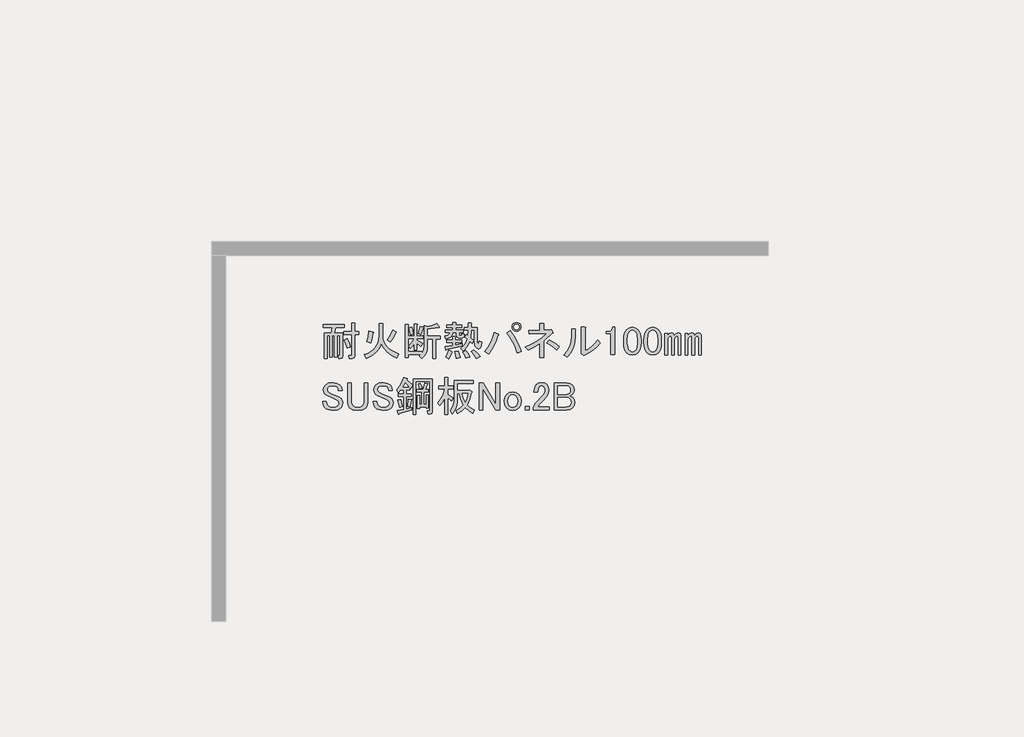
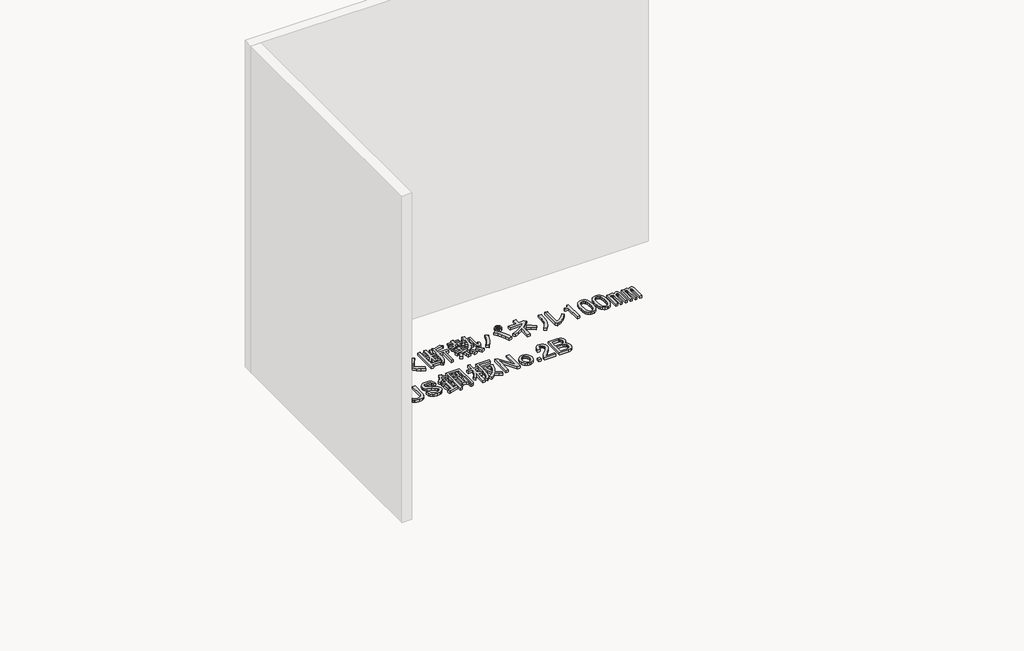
# One storey, part 116 of 117: 1 proxy.
"""IFC4 building model written with IfcOpenShell, lengths in millimetres."""

from ifc_helpers import new_model, si_unit, frame, origin, place, context, project, spatial, polyline, outline, extrude, element, save

model = new_model("IFC4")

# Units and contexts
model_context = context("Model", 3, world=origin())
ifc_project = project(units=[si_unit("LENGTHUNIT", "METRE", prefix="MILLI")], contexts=[model_context])

# Site, building, storey
site = spatial("IfcSite", under=ifc_project)
building = spatial("IfcBuilding", under=site)
storey = spatial("IfcBuildingStorey", under=building, Name="レベル 1", Elevation=500.0)

# Proxy
placement = place(None, origin())
element("IfcBuildingElementProxy", 1, Name="200㎜\u3000MS Pゴシック", ObjectType="200㎜\u3000MS Pゴシック", at=placement, inside=storey, context=model_context, shape_type="SweptSolid", body=[
    extrude(outline(polyline([(64978.5674486, 11229.3142262), (64971.0959694, 11259.7748726), (64960.176115, 11289.0860605), (64982.0158237, 11297.132269), (64994.372501, 11267.5337164), (65001.5566157, 11238.5098931), (64978.5674486, 11229.3142262)])), frame((0.0, 0.0, 500.0), z_axis=(0.0, 0.0, 1.0), x_axis=(1.0, 0.0, 0.0)), (0.0, 0.0, 1.0), 25.0),
    extrude(outline(polyline([(64887.7602388, 11320.121436), (64871.6678219, 11320.121436), (64871.6678219, 11164.9445585), (64852.1270299, 11164.9445585), (64852.1270299, 11320.121436), (64833.7356963, 11320.121436), (64833.7356963, 11152.3005167), (64814.1949043, 11152.3005167), (64814.1949043, 11338.5127697), (64865.9205301, 11338.5127697), (64871.6678219, 11377.5943537), (64804.9992375, 11377.5943537), (64804.9992375, 11399.4340623), (64960.176115, 11399.4340623), (64960.176115, 11377.5943537), (64895.8064473, 11377.5943537), (64885.4613221, 11338.5127697), (64946.3826148, 11338.5127697), (64946.3826148, 11170.6918503), (64942.3595106, 11158.6225376), (64930.2901979, 11154.5994334), (64919.9450727, 11154.5994334), (64915.3472393, 11176.439142), (64922.2439894, 11176.439142), (64925.6923645, 11177.5886004), (64926.8418228, 11181.0369755), (64926.8418228, 11320.121436), (64907.3010308, 11320.121436), (64907.3010308, 11164.9445585), (64887.7602388, 11164.9445585), (64887.7602388, 11320.121436)])), frame((0.0, 0.0, 500.0), z_axis=(0.0, 0.0, 1.0), x_axis=(1.0, 0.0, 0.0)), (0.0, 0.0, 1.0), 25.0),
    extrude(outline(polyline([(64956.72774, 11325.8687278), (64956.72774, 11347.7084365), (65013.0511992, 11347.7084365), (65013.0511992, 11409.7791875), (65034.8909079, 11409.7791875), (65039.7761059, 11407.4802708), (65036.0403663, 11402.8824374), (65036.0403663, 11347.7084365), (65064.7768251, 11347.7084365), (65064.7768251, 11325.8687278), (65036.0403663, 11325.8687278), (65036.0403663, 11172.990767), (65031.4425328, 11159.1972668), (65017.6490326, 11154.5994334), (64994.6598656, 11154.5994334), (64991.2114905, 11176.439142), (65008.4533658, 11176.439142), (65011.9017409, 11177.5886004), (65013.0511992, 11181.0369755), (65013.0511992, 11325.8687278), (64956.72774, 11325.8687278)])), frame((0.0, 0.0, 500.0), z_axis=(0.0, 0.0, 1.0), x_axis=(1.0, 0.0, 0.0)), (0.0, 0.0, 1.0), 25.0),
    extrude(outline(polyline([(65226.8504527, 11261.4990601), (65210.9017181, 11226.6561038), (65187.1941395, 11196.8420278), (65155.7277172, 11172.0568321), (65116.5024509, 11152.3005167), (65102.7089507, 11181.0369755), (65128.032955, 11190.71757), (65149.9804254, 11202.5174784), (65168.5513619, 11216.4367006), (65183.7457645, 11232.4752367), (65195.5636332, 11250.6330866), (65204.0049679, 11270.9102504), (65209.0697688, 11293.3067279), (65210.7580358, 11317.8225193), (65210.7580358, 11408.6297292), (65237.1955779, 11406.3308125), (65240.6439529, 11402.8824374), (65237.1955779, 11397.1351456), (65237.1955779, 11317.8225193), (65238.9916065, 11296.377937), (65244.3796926, 11276.2983364), (65253.3598359, 11257.5837176), (65265.9320367, 11240.2340806), (65282.0962947, 11224.2494254), (65301.8526102, 11209.629752), (65352.1414131, 11184.4853505), (65340.6468295, 11155.7488917), (65301.2060398, 11175.2896837), (65269.0930471, 11199.4283091), (65244.3078514, 11228.1647679), (65226.8504527, 11261.4990601)])), frame((0.0, 0.0, 500.0), z_axis=(0.0, 0.0, 1.0), x_axis=(1.0, 0.0, 0.0)), (0.0, 0.0, 1.0), 25.0),
    extrude(outline(polyline([(65330.3017044, 11337.3633113), (65310.1861832, 11297.9943628), (65293.5190371, 11271.8441853), (65270.5298701, 11286.7871438), (65290.3580266, 11318.3972485), (65308.4619957, 11358.0535617), (65333.7500794, 11345.4095198), (65336.3363607, 11341.6737801), (65330.3017044, 11337.3633113)])), frame((0.0, 0.0, 500.0), z_axis=(0.0, 0.0, 1.0), x_axis=(1.0, 0.0, 0.0)), (0.0, 0.0, 1.0), 25.0),
    extrude(outline(polyline([(65122.2497427, 11276.4420187), (65134.0316908, 11310.6384046), (65137.1927012, 11353.4557283), (65165.92916, 11346.5589781), (65170.5269934, 11342.8232385), (65165.92916, 11338.5127697), (65162.1934204, 11304.0290191), (65150.9862015, 11267.2463519), (65122.2497427, 11276.4420187)])), frame((0.0, 0.0, 500.0), z_axis=(0.0, 0.0, 1.0), x_axis=(1.0, 0.0, 0.0)), (0.0, 0.0, 1.0), 25.0),
    extrude(outline(polyline([(65647.5522095, 11381.0427287), (65645.828022, 11376.4448953), (65638.3565427, 11378.743812), (65561.3428331, 11366.0997701), (65561.3428331, 11316.673061), (65653.2995013, 11316.673061), (65653.2995013, 11294.8333523), (65622.2641258, 11294.8333523), (65622.2641258, 11154.5994334), (65599.2749588, 11154.5994334), (65599.2749588, 11294.8333523), (65561.3428331, 11294.8333523), (65561.3428331, 11245.4066432), (65558.7565518, 11217.6041193), (65550.997708, 11192.8189236), (65538.0663015, 11171.051056), (65519.9623325, 11152.3005167), (65502.7204572, 11171.8413086), (65513.0655823, 11181.0369755), (65423.4078309, 11181.0369755), (65423.4078309, 11159.1972668), (65400.4186638, 11159.1972668), (65400.4186638, 11398.284604), (65422.2583725, 11398.284604), (65427.1435705, 11395.9856873), (65423.4078309, 11391.3878539), (65423.4078309, 11315.5236026), (65465.9377899, 11315.5236026), (65465.9377899, 11402.8824374), (65484.3291235, 11402.8824374), (65489.2143215, 11400.5835207), (65485.4785819, 11395.9856873), (65485.4785819, 11315.5236026), (65529.1579993, 11315.5236026), (65529.1579993, 11297.132269), (65485.4785819, 11297.132269), (65485.4785819, 11287.9366022), (65525.7096242, 11261.4990601), (65511.916124, 11239.6593514), (65485.4785819, 11266.0968935), (65485.4785819, 11213.2218093), (65465.9377899, 11213.2218093), (65465.9377899, 11261.4990601), (65452.7190189, 11241.6709035), (65438.3507895, 11225.8658512), (65425.7067476, 11244.2571848), (65447.5464563, 11268.3958102), (65464.7883316, 11297.132269), (65423.4078309, 11297.132269), (65423.4078309, 11202.8766841), (65521.1117908, 11202.8766841), (65521.1117908, 11189.0831839), (65534.0431973, 11213.2218093), (65538.3536661, 11246.5561015), (65538.3536661, 11391.3878539), (65560.1933748, 11385.6405621), (65596.4013129, 11393.1120414), (65626.8619592, 11406.3308125), (65647.5522095, 11381.0427287)])), frame((0.0, 0.0, 500.0), z_axis=(0.0, 0.0, 1.0), x_axis=(1.0, 0.0, 0.0)), (0.0, 0.0, 1.0), 25.0),
    extrude(outline(polyline([(65493.5247904, 11332.7654779), (65510.7666656, 11385.6405621), (65531.456916, 11379.8932704), (65533.1811035, 11376.7322599), (65529.1579993, 11374.1459786), (65511.916124, 11325.8687278), (65493.5247904, 11332.7654779)])), frame((0.0, 0.0, 500.0), z_axis=(0.0, 0.0, 1.0), x_axis=(1.0, 0.0, 0.0)), (0.0, 0.0, 1.0), 25.0),
    extrude(outline(polyline([(65439.5002478, 11324.7192695), (65426.8562059, 11375.2954369), (65446.3969979, 11382.1921871), (65454.1558418, 11358.0535617), (65459.0410398, 11331.6160196), (65439.5002478, 11324.7192695)])), frame((0.0, 0.0, 500.0), z_axis=(0.0, 0.0, 1.0), x_axis=(1.0, 0.0, 0.0)), (0.0, 0.0, 1.0), 25.0),
    extrude(outline(polyline([(65770.5442532, 11340.8116864), (65745.2561695, 11340.8116864), (65740.6583361, 11323.3542877), (65730.3132109, 11310.0636755), (65714.220794, 11300.9398498), (65692.3810853, 11295.9828107), (65687.7832519, 11315.5236026), (65713.0713356, 11324.1445403), (65720.5428149, 11331.4723373), (65724.5659191, 11340.8116864), (65688.9327102, 11340.8116864), (65688.9327102, 11359.20302), (65742.9572528, 11359.20302), (65742.9572528, 11376.4448953), (65699.2778354, 11376.4448953), (65699.2778354, 11394.8362289), (65742.9572528, 11394.8362289), (65742.9572528, 11413.2275626), (65764.7969614, 11413.2275626), (65769.6821594, 11410.9286459), (65765.9464198, 11406.3308125), (65765.9464198, 11394.8362289), (65808.4763788, 11394.8362289), (65808.4763788, 11376.4448953), (65765.9464198, 11376.4448953), (65765.9464198, 11359.20302), (65818.821504, 11359.20302), (65818.821504, 11340.8116864), (65790.0850452, 11340.8116864), (65790.0850452, 11328.1676445), (65791.5218681, 11322.9950819), (65795.832337, 11321.2708944), (65806.1774621, 11321.2708944), (65809.9132018, 11324.4319049), (65809.6258372, 11333.9149363), (65829.1666292, 11331.6160196), (65826.2929833, 11310.0636755), (65820.9767384, 11304.6755894), (65813.0742122, 11302.8795608), (65788.9355868, 11302.8795608), (65775.1420866, 11307.7647588), (65770.5442532, 11322.4203528), (65770.5442532, 11340.8116864)])), frame((0.0, 0.0, 500.0), z_axis=(0.0, 0.0, 1.0), x_axis=(1.0, 0.0, 0.0)), (0.0, 0.0, 1.0), 25.0),
    extrude(outline(polyline([(65901.5825053, 11358.0535617), (65879.7427966, 11358.0535617), (65875.1449632, 11300.5806441), (65894.6857552, 11282.1893104), (65884.3406301, 11260.3496017), (65868.2482131, 11276.4420187), (65848.9947857, 11238.7972576), (65818.821504, 11206.3250592), (65801.5796287, 11227.0153095), (65816.6662696, 11238.9409399), (65829.7413583, 11254.0275808), (65840.804895, 11272.2752321), (65849.8568795, 11293.683894), (65832.6150042, 11308.6268525), (65840.6612127, 11325.8687278), (65854.4547129, 11315.5236026), (65856.7536296, 11358.0535617), (65829.1666292, 11358.0535617), (65829.1666292, 11376.4448953), (65856.7536296, 11376.4448953), (65856.7536296, 11410.9286459), (65878.5933383, 11410.9286459), (65883.4785363, 11408.6297292), (65879.7427966, 11404.0318957), (65879.7427966, 11376.4448953), (65921.1232973, 11376.4448953), (65921.1232973, 11279.8903937), (65924.5716724, 11255.7517683), (65927.804524, 11253.7402162), (65930.6063287, 11256.9012267), (65934.9167975, 11278.7409354), (65954.4575895, 11271.8441853), (65949.9315973, 11245.0474374), (65942.1009122, 11229.0268616), (65930.9655345, 11223.7824579), (65916.5254639, 11229.3142262), (65909.9879195, 11236.6420232), (65905.318245, 11248.280289), (65901.5825053, 11284.4882271), (65901.5825053, 11358.0535617)])), frame((0.0, 0.0, 500.0), z_axis=(0.0, 0.0, 1.0), x_axis=(1.0, 0.0, 0.0)), (0.0, 0.0, 1.0), 25.0),
    extrude(outline(polyline([(65700.4272937, 11218.9691011), (65698.4157416, 11214.0839031), (65694.680002, 11215.520726), (65688.9327102, 11239.6593514), (65744.1067111, 11247.7055599), (65744.1067111, 11270.6947269), (65700.4272937, 11270.6947269), (65700.4272937, 11289.0860605), (65744.1067111, 11289.0860605), (65744.1067111, 11312.0752276), (65762.4980447, 11312.0752276), (65767.3832427, 11309.7763109), (65763.6475031, 11305.1784775), (65763.6475031, 11289.0860605), (65808.4763788, 11289.0860605), (65808.4763788, 11270.6947269), (65763.6475031, 11270.6947269), (65763.6475031, 11251.1539349), (65814.2236706, 11260.3496017), (65814.2236706, 11244.2571848), (65700.4272937, 11218.9691011)])), frame((0.0, 0.0, 500.0), z_axis=(0.0, 0.0, 1.0), x_axis=(1.0, 0.0, 0.0)), (0.0, 0.0, 1.0), 25.0),
    extrude(outline(polyline([(65898.1341303, 11214.3712677), (65922.8474849, 11193.1062881), (65941.8135477, 11168.3929336), (65915.3760056, 11153.449975), (65896.1225782, 11183.0485276), (65877.4438799, 11202.8766841), (65898.1341303, 11214.3712677)])), frame((0.0, 0.0, 500.0), z_axis=(0.0, 0.0, 1.0), x_axis=(1.0, 0.0, 0.0)), (0.0, 0.0, 1.0), 25.0),
    extrude(outline(polyline([(65839.5117543, 11155.7488917), (65831.1781813, 11180.4622463), (65817.6720456, 11201.7272258), (65838.362296, 11209.7734343), (65855.3168067, 11188.2210902), (65867.0987548, 11164.9445585), (65839.5117543, 11155.7488917)])), frame((0.0, 0.0, 500.0), z_axis=(0.0, 0.0, 1.0), x_axis=(1.0, 0.0, 0.0)), (0.0, 0.0, 1.0), 25.0),
    extrude(outline(polyline([(65738.3594193, 11204.0261425), (65741.8077944, 11199.1409445), (65736.0605026, 11195.979934), (65726.2901067, 11170.4044857), (65715.3702523, 11151.1510583), (65692.3810853, 11162.6456418), (65705.0251271, 11186.209538), (65715.3702523, 11213.2218093), (65738.3594193, 11204.0261425)])), frame((0.0, 0.0, 500.0), z_axis=(0.0, 0.0, 1.0), x_axis=(1.0, 0.0, 0.0)), (0.0, 0.0, 1.0), 25.0),
    extrude(outline(polyline([(65783.1882951, 11208.6239759), (65793.2460557, 11181.32434), (65798.1312537, 11159.1972668), (65769.3947949, 11153.449975), (65766.8085136, 11175.0023191), (65759.0496697, 11205.1756008), (65783.1882951, 11208.6239759)])), frame((0.0, 0.0, 500.0), z_axis=(0.0, 0.0, 1.0), x_axis=(1.0, 0.0, 0.0)), (0.0, 0.0, 1.0), 25.0),
    extrude(outline(polyline([(66206.1889686, 11350.0073532), (66193.5449268, 11352.3062699), (66183.1998016, 11359.20302), (66176.3030515, 11369.5481452), (66174.0041348, 11382.1921871), (66176.3030515, 11394.8362289), (66183.1998016, 11405.1813541), (66193.5449268, 11412.0781042), (66206.1889686, 11414.3770209), (66218.8330105, 11412.0781042), (66229.1781357, 11405.1813541), (66236.0748858, 11394.8362289), (66238.3738025, 11382.1921871), (66236.0748858, 11369.5481452), (66229.1781357, 11359.20302), (66218.8330105, 11352.3062699), (66206.1889686, 11350.0073532)]), holes=[polyline([(66206.1889686, 11361.5019367), (66214.5225417, 11362.9387597), (66221.1319272, 11367.2492285), (66225.442396, 11373.858614), (66226.879219, 11382.1921871), (66225.442396, 11390.5257601), (66221.1319272, 11397.1351456), (66214.5225417, 11401.4456145), (66206.1889686, 11402.8824374), (66197.8553956, 11401.4456145), (66191.2460101, 11397.1351456), (66186.9355412, 11390.5257601), (66185.4987183, 11382.1921871), (66186.9355412, 11373.858614), (66191.2460101, 11367.2492285), (66197.8553956, 11362.9387597), (66206.1889686, 11361.5019367)])]), frame((0.0, 0.0, 500.0), z_axis=(0.0, 0.0, 1.0), x_axis=(1.0, 0.0, 0.0)), (0.0, 0.0, 1.0), 25.0),
    extrude(outline(polyline([(66160.2106345, 11355.754645), (66186.8637001, 11319.0438188), (66209.3499791, 11281.3272167), (66227.6694716, 11242.6048384), (66241.8221775, 11202.8766841), (66210.786802, 11192.531559), (66195.3409554, 11235.6362472), (66177.7398744, 11274.143102), (66157.983559, 11308.0521234), (66136.0720092, 11337.3633113), (66160.2106345, 11355.754645)])), frame((0.0, 0.0, 500.0), z_axis=(0.0, 0.0, 1.0), x_axis=(1.0, 0.0, 0.0)), (0.0, 0.0, 1.0), 25.0),
    extrude(outline(polyline([(66072.8517998, 11329.3171029), (66076.874904, 11323.8571757), (66070.5528831, 11318.9719777), (66058.6272527, 11283.5542922), (66043.5406118, 11249.717112), (66025.2929605, 11217.460437), (66003.8842987, 11186.7842672), (65977.4467566, 11204.0261425), (66000.6514471, 11235.4925649), (66019.689351, 11268.9705394), (66034.5604684, 11304.460066), (66045.2647993, 11341.9611447), (66072.8517998, 11329.3171029)])), frame((0.0, 0.0, 500.0), z_axis=(0.0, 0.0, 1.0), x_axis=(1.0, 0.0, 0.0)), (0.0, 0.0, 1.0), 25.0),
    extrude(outline(polyline([(66449.8741393, 11360.3524784), (66456.7708894, 11362.6513951), (66469.4149312, 11345.4095198), (66470.5643896, 11339.3748634), (66464.8170978, 11337.3633113), (66401.5968885, 11281.0398521), (66401.5968885, 11160.3467251), (66375.1593464, 11160.3467251), (66375.1593464, 11262.6485184), (66334.9283041, 11238.5098931), (66290.0994283, 11216.6701844), (66270.5586363, 11237.3604347), (66316.1059235, 11256.8293855), (66357.3427419, 11279.6030291), (66394.2690915, 11305.6813655), (66426.8849722, 11335.0643946), (66296.9961784, 11329.3171029), (66293.5478034, 11354.6051866), (66375.1593464, 11356.9041033), (66375.1593464, 11408.6297292), (66398.1485134, 11408.6297292), (66404.1831698, 11405.1813541), (66401.5968885, 11399.4340623), (66401.5968885, 11358.0535617), (66449.8741393, 11360.3524784)])), frame((0.0, 0.0, 500.0), z_axis=(0.0, 0.0, 1.0), x_axis=(1.0, 0.0, 0.0)), (0.0, 0.0, 1.0), 25.0),
    extrude(outline(polyline([(66495.8524733, 11216.6701844), (66458.7824415, 11245.9813723), (66425.7355139, 11267.2463519), (66442.9773892, 11289.0860605), (66481.7716085, 11265.8095289), (66515.3932653, 11239.6593514), (66495.8524733, 11216.6701844)])), frame((0.0, 0.0, 500.0), z_axis=(0.0, 0.0, 1.0), x_axis=(1.0, 0.0, 0.0)), (0.0, 0.0, 1.0), 25.0),
    extrude(outline(polyline([(66702.8469334, 11209.7734343), (66727.6321291, 11221.9864292), (66751.4115488, 11239.0846222), (66774.1851924, 11261.0680132), (66795.9530599, 11287.9366022), (66812.0454768, 11266.0968935), (66788.7689452, 11238.2943696), (66762.6187677, 11214.6586322), (66733.5949443, 11195.1896814), (66701.697475, 11179.8875171), (66692.5018082, 11175.2896837), (66674.1104746, 11189.0831839), (66676.4093913, 11194.8304757), (66676.4093913, 11379.8932704), (66700.5480167, 11379.8932704), (66706.2953084, 11376.4448953), (66702.8469334, 11370.6976035), (66702.8469334, 11209.7734343)])), frame((0.0, 0.0, 500.0), z_axis=(0.0, 0.0, 1.0), x_axis=(1.0, 0.0, 0.0)), (0.0, 0.0, 1.0), 25.0),
    extrude(outline(polyline([(66548.8195142, 11178.7380587), (66573.9639157, 11207.9774056), (66591.9242024, 11240.5214452), (66602.7003745, 11276.3701775), (66606.2924318, 11315.5236026), (66606.2924318, 11367.2492285), (66630.4310572, 11367.2492285), (66636.178349, 11363.8008534), (66632.7299739, 11358.0535617), (66632.7299739, 11316.673061), (66628.9223931, 11270.9102504), (66617.4996507, 11230.17632), (66598.4617468, 11194.4712699), (66571.8086812, 11163.7951002), (66548.8195142, 11178.7380587)])), frame((0.0, 0.0, 500.0), z_axis=(0.0, 0.0, 1.0), x_axis=(1.0, 0.0, 0.0)), (0.0, 0.0, 1.0), 25.0),
    extrude(outline(polyline([(66891.3581031, 11356.9041033), (66899.4043116, 11367.8239577), (66902.8526866, 11379.8932704), (66916.6461869, 11379.8932704), (66916.6461869, 11181.0369755), (66890.2086448, 11181.0369755), (66890.2086448, 11333.9149363), (66855.7248942, 11333.9149363), (66855.7248942, 11347.7084365), (66866.0700194, 11347.7084365), (66880.4382488, 11350.0073532), (66891.3581031, 11356.9041033)])), frame((0.0, 0.0, 500.0), z_axis=(0.0, 0.0, 1.0), x_axis=(1.0, 0.0, 0.0)), (0.0, 0.0, 1.0), 25.0),
    extrude(outline(polyline([(66982.1653129, 11290.2355189), (66983.6021359, 11313.7994151), (66987.9126047, 11333.9149363), (66995.0967194, 11350.5820824), (67005.15448, 11363.8008534), (67023.258449, 11375.8701661), (67045.3855223, 11379.8932704), (67067.5125956, 11375.8701661), (67085.6165646, 11363.8008534), (67095.6743252, 11350.5820824), (67102.8584399, 11333.9149363), (67107.1689087, 11313.7994151), (67108.6057317, 11290.2355189), (67108.6057317, 11267.2463519), (67107.1689087, 11244.1853437), (67102.8584399, 11224.4290282), (67095.6743252, 11207.9774056), (67085.6165646, 11194.8304757), (67067.5125956, 11182.761163), (67045.3855223, 11178.7380587), (67023.258449, 11182.761163), (67005.15448, 11194.8304757), (66995.0967194, 11207.9774056), (66987.9126047, 11224.4290282), (66983.6021359, 11244.1853437), (66982.1653129, 11267.2463519), (66982.1653129, 11290.2355189)]), holes=[polyline([(67045.3855223, 11358.0535617), (67034.4656679, 11355.754645), (67024.695272, 11348.8578948), (67018.1577276, 11339.7340692), (67013.488053, 11327.3055507), (67009.7523134, 11292.5344356), (67009.7523134, 11266.0968935), (67013.7754176, 11231.9005075), (67018.8042979, 11219.3283068), (67025.8447303, 11209.7734343), (67035.3277617, 11202.8766841), (67045.3855223, 11200.5777674), (67056.3053766, 11202.8766841), (67066.0757726, 11209.7734343), (67072.613317, 11218.8972599), (67077.2829916, 11231.3257784), (67081.0187312, 11266.0968935), (67081.0187312, 11292.5344356), (67077.2829916, 11327.3055507), (67072.613317, 11339.7340692), (67066.0757726, 11348.8578948), (67056.3053766, 11355.754645), (67045.3855223, 11358.0535617)])]), frame((0.0, 0.0, 500.0), z_axis=(0.0, 0.0, 1.0), x_axis=(1.0, 0.0, 0.0)), (0.0, 0.0, 1.0), 25.0),
    extrude(outline(polyline([(67129.295982, 11290.2355189), (67130.7328049, 11313.7994151), (67135.0432737, 11333.9149363), (67142.2273884, 11350.5820824), (67152.285149, 11363.8008534), (67170.3891181, 11375.8701661), (67192.5161914, 11379.8932704), (67214.6432646, 11375.8701661), (67232.7472337, 11363.8008534), (67242.8049943, 11350.5820824), (67249.989109, 11333.9149363), (67254.2995778, 11313.7994151), (67255.7364007, 11290.2355189), (67255.7364007, 11267.2463519), (67254.2995778, 11244.1853437), (67249.989109, 11224.4290282), (67242.8049943, 11207.9774056), (67232.7472337, 11194.8304757), (67214.6432646, 11182.761163), (67192.5161914, 11178.7380587), (67170.3891181, 11182.761163), (67152.285149, 11194.8304757), (67142.2273884, 11207.9774056), (67135.0432737, 11224.4290282), (67130.7328049, 11244.1853437), (67129.295982, 11267.2463519), (67129.295982, 11290.2355189)]), holes=[polyline([(67192.5161914, 11358.0535617), (67181.596337, 11355.754645), (67171.825941, 11348.8578948), (67165.2883966, 11339.7340692), (67160.6187221, 11327.3055507), (67156.8829824, 11292.5344356), (67156.8829824, 11266.0968935), (67160.9060867, 11231.9005075), (67165.934967, 11219.3283068), (67172.9753994, 11209.7734343), (67182.4584308, 11202.8766841), (67192.5161914, 11200.5777674), (67203.4360457, 11202.8766841), (67213.2064417, 11209.7734343), (67219.7439861, 11218.8972599), (67224.4136606, 11231.3257784), (67228.1494003, 11266.0968935), (67228.1494003, 11292.5344356), (67224.4136606, 11327.3055507), (67219.7439861, 11339.7340692), (67213.2064417, 11348.8578948), (67203.4360457, 11355.754645), (67192.5161914, 11358.0535617)])]), frame((0.0, 0.0, 500.0), z_axis=(0.0, 0.0, 1.0), x_axis=(1.0, 0.0, 0.0)), (0.0, 0.0, 1.0), 25.0),
    extrude(outline(polyline([(67300.5652764, 11178.7380587), (67281.0244845, 11178.7380587), (67281.0244845, 11336.213853), (67300.5652764, 11336.213853), (67300.5652764, 11318.9719777), (67312.6345891, 11334.4896654), (67325.8533602, 11339.662228), (67335.049027, 11338.2254051), (67341.9457771, 11333.9149363), (67348.8425272, 11320.121436), (67361.7739337, 11334.77703), (67375.2800693, 11339.662228), (67383.6136424, 11338.2254051), (67390.2230279, 11333.9149363), (67395.3955905, 11325.2939986), (67397.119778, 11313.2246859), (67397.119778, 11178.7380587), (67377.578986, 11178.7380587), (67377.578986, 11302.8795608), (67374.9927047, 11312.3625922), (67367.2338609, 11315.5236026), (67356.8887357, 11310.9257692), (67350.8540793, 11302.3048316), (67348.8425272, 11292.5344356), (67348.8425272, 11178.7380587), (67329.3017352, 11178.7380587), (67329.3017352, 11302.8795608), (67326.715454, 11312.3625922), (67318.9566101, 11315.5236026), (67308.6114849, 11310.9257692), (67302.5768286, 11302.3048316), (67300.5652764, 11292.5344356), (67300.5652764, 11178.7380587)])), frame((0.0, 0.0, 500.0), z_axis=(0.0, 0.0, 1.0), x_axis=(1.0, 0.0, 0.0)), (0.0, 0.0, 1.0), 25.0),
    extrude(outline(polyline([(67522.4107384, 11339.662228), (67530.7443114, 11338.2254051), (67537.353697, 11333.9149363), (67542.5262595, 11325.2939986), (67544.2504471, 11313.2246859), (67544.2504471, 11178.7380587), (67524.7096551, 11178.7380587), (67524.7096551, 11302.8795608), (67522.1233738, 11312.3625922), (67514.3645299, 11315.5236026), (67504.0194048, 11310.9257692), (67497.9847484, 11302.3048316), (67495.9731963, 11292.5344356), (67495.9731963, 11178.7380587), (67476.4324043, 11178.7380587), (67476.4324043, 11302.8795608), (67473.846123, 11312.3625922), (67466.0872791, 11315.5236026), (67455.742154, 11310.9257692), (67449.7074976, 11302.3048316), (67447.6959455, 11292.5344356), (67447.6959455, 11178.7380587), (67428.1551535, 11178.7380587), (67428.1551535, 11336.213853), (67447.6959455, 11336.213853), (67447.6959455, 11318.9719777), (67459.7652582, 11334.4896654), (67472.9840292, 11339.662228), (67482.1796961, 11338.2254051), (67489.0764462, 11333.9149363), (67495.9731963, 11320.121436), (67508.9046028, 11334.77703), (67522.4107384, 11339.662228)])), frame((0.0, 0.0, 500.0), z_axis=(0.0, 0.0, 1.0), x_axis=(1.0, 0.0, 0.0)), (0.0, 0.0, 1.0), 25.0),
    extrude(outline(polyline([(64807.2981542, 10924.7192695), (64811.3212584, 10945.1221552), (64823.3905711, 10962.6513951), (64843.7934569, 10974.7207078), (64872.8172803, 10978.743812), (64904.1400204, 10974.1459786), (64926.8418228, 10960.3524784), (64938.9111355, 10942.8232385), (64942.9342397, 10922.4203528), (64916.4966976, 10922.4203528), (64914.1977809, 10935.0643946), (64907.3010308, 10945.4095198), (64894.0822598, 10953.1683637), (64875.116197, 10955.754645), (64854.7133112, 10953.4557283), (64841.7819048, 10946.5589781), (64835.7472484, 10937.9380405), (64833.7356963, 10928.1676445), (64838.3335297, 10913.2246859), (64859.02378, 10901.7301024), (64918.7956143, 10875.2925603), (64936.0374896, 10863.7979768), (64945.520521, 10850.0044766), (64948.6815315, 10833.9120596), (64944.6584273, 10812.6470801), (64932.5891146, 10794.8304757), (64922.6031951, 10787.2871552), (64909.8873121, 10781.8990692), (64876.2656553, 10777.5886004), (64842.6439985, 10782.761163), (64829.0660217, 10789.2268662), (64817.6432794, 10798.2788507), (64806.4360604, 10816.6701844), (64802.7003208, 10841.9582681), (64829.1378629, 10841.9582681), (64831.4367796, 10824.1416637), (64838.3335297, 10812.072351), (64854.4259466, 10802.5893196), (64877.4151137, 10799.4283091), (64898.3927286, 10802.301955), (64913.0483226, 10810.9228926), (64919.9450727, 10820.1185594), (64922.2439894, 10829.3142262), (64920.5198019, 10838.7972576), (64915.3472393, 10846.5561015), (64896.9559057, 10858.050685), (64867.0699885, 10871.8441853), (64833.7356963, 10886.7871438), (64817.6432794, 10897.132269), (64809.8844355, 10909.2015817), (64807.2981542, 10924.7192695)])), frame((0.0, 0.0, 500.0), z_axis=(0.0, 0.0, 1.0), x_axis=(1.0, 0.0, 0.0)), (0.0, 0.0, 1.0), 25.0),
    extrude(outline(polyline([(64982.7054987, 10976.4448953), (65009.1430408, 10976.4448953), (65009.1430408, 10838.5098931), (65011.7293221, 10823.8542991), (65019.488166, 10812.072351), (65035.0058537, 10802.5893196), (65056.2708332, 10799.4283091), (65077.5358128, 10802.5893196), (65093.0535005, 10812.072351), (65100.8123444, 10823.8542991), (65103.3986257, 10838.5098931), (65103.3986257, 10976.4448953), (65129.8361678, 10976.4448953), (65129.8361678, 10837.3604347), (65125.8130635, 10814.3712677), (65113.7437508, 10795.979934), (65103.2549434, 10787.9337256), (65090.1798546, 10782.1864338), (65056.2708332, 10777.5886004), (65022.3618119, 10782.1864338), (65009.2867231, 10787.9337256), (64998.7979156, 10795.979934), (64986.7286029, 10814.3712677), (64982.7054987, 10837.3604347), (64982.7054987, 10976.4448953)])), frame((0.0, 0.0, 500.0), z_axis=(0.0, 0.0, 1.0), x_axis=(1.0, 0.0, 0.0)), (0.0, 0.0, 1.0), 25.0),
    extrude(outline(polyline([(65172.1822135, 10924.7192695), (65176.2053177, 10945.1221552), (65188.2746304, 10962.6513951), (65208.6775161, 10974.7207078), (65237.7013395, 10978.743812), (65269.0240796, 10974.1459786), (65291.7258821, 10960.3524784), (65303.7951948, 10942.8232385), (65307.818299, 10922.4203528), (65281.3807569, 10922.4203528), (65279.0818402, 10935.0643946), (65272.1850901, 10945.4095198), (65258.966319, 10953.1683637), (65240.0002562, 10955.754645), (65219.5973705, 10953.4557283), (65206.665964, 10946.5589781), (65200.6313077, 10937.9380405), (65198.6197556, 10928.1676445), (65203.217589, 10913.2246859), (65223.9078393, 10901.7301024), (65283.6796736, 10875.2925603), (65300.9215489, 10863.7979768), (65310.4045803, 10850.0044766), (65313.5655908, 10833.9120596), (65309.5424865, 10812.6470801), (65297.4731738, 10794.8304757), (65287.4872544, 10787.2871552), (65274.7713714, 10781.8990692), (65241.1497146, 10777.5886004), (65207.5280578, 10782.761163), (65193.950081, 10789.2268662), (65182.5273386, 10798.2788507), (65171.3201197, 10816.6701844), (65167.5843801, 10841.9582681), (65194.0219222, 10841.9582681), (65196.3208389, 10824.1416637), (65203.217589, 10812.072351), (65219.3100059, 10802.5893196), (65242.2991729, 10799.4283091), (65263.2767879, 10802.301955), (65277.9323819, 10810.9228926), (65284.829132, 10820.1185594), (65287.1280487, 10829.3142262), (65285.4038611, 10838.7972576), (65280.2312986, 10846.5561015), (65261.8399649, 10858.050685), (65231.9540478, 10871.8441853), (65198.6197556, 10886.7871438), (65182.5273386, 10897.132269), (65174.7684948, 10909.2015817), (65172.1822135, 10924.7192695)])), frame((0.0, 0.0, 500.0), z_axis=(0.0, 0.0, 1.0), x_axis=(1.0, 0.0, 0.0)), (0.0, 0.0, 1.0), 25.0),
    extrude(outline(polyline([(65441.8451429, 10937.3633113), (65400.4646422, 10981.0427287), (65378.6249335, 10941.9611447), (65433.7989344, 10941.9611447), (65433.7989344, 10923.5698111), (65407.3613923, 10923.5698111), (65407.3613923, 10894.8333523), (65445.2935179, 10894.8333523), (65445.2935179, 10876.4420187), (65407.3613923, 10876.4420187), (65407.3613923, 10789.0831839), (65446.4429763, 10799.4283091), (65448.741893, 10779.8875171), (65356.7852248, 10754.5994334), (65354.4863081, 10748.8521416), (65349.8884747, 10752.3005167), (65342.9917246, 10775.2896837), (65387.8206003, 10784.4853505), (65387.8206003, 10876.4420187), (65349.8884747, 10876.4420187), (65349.8884747, 10894.8333523), (65387.8206003, 10894.8333523), (65387.8206003, 10923.5698111), (65365.9808916, 10923.5698111), (65351.037933, 10905.1784775), (65338.3938912, 10925.8687278), (65366.5556208, 10963.5134888), (65391.2689754, 11014.3770209), (65413.1086841, 11008.6297292), (65416.5570591, 11004.8939895), (65410.8097674, 11002.8824374), (65409.660309, 10999.4340623), (65454.4891847, 10961.5019367), (65441.8451429, 10937.3633113)])), frame((0.0, 0.0, 500.0), z_axis=(0.0, 0.0, 1.0), x_axis=(1.0, 0.0, 0.0)), (0.0, 0.0, 1.0), 25.0),
    extrude(outline(polyline([(65509.6631856, 10974.1459786), (65516.8473003, 10958.9156554), (65522.3072275, 10938.5127697), (65505.0653522, 10932.7654779), (65493.5707687, 10969.5481452), (65509.6631856, 10974.1459786)])), frame((0.0, 0.0, 500.0), z_axis=(0.0, 0.0, 1.0), x_axis=(1.0, 0.0, 0.0)), (0.0, 0.0, 1.0), 25.0),
    extrude(outline(polyline([(65562.5382698, 10972.9965202), (65565.1245511, 10969.5481452), (65559.0898948, 10966.0997701), (65546.4458529, 10928.1676445), (65567.1361032, 10928.1676445), (65567.1361032, 10909.7763109), (65536.1007277, 10909.7763109), (65536.1007277, 10821.2680178), (65551.0436863, 10821.2680178), (65551.0436863, 10889.0860605), (65567.1361032, 10889.0860605), (65567.1361032, 10794.8304757), (65551.0436863, 10794.8304757), (65551.0436863, 10802.8766841), (65505.0653522, 10802.8766841), (65505.0653522, 10790.2326423), (65488.9729353, 10790.2326423), (65488.9729353, 10886.7871438), (65505.0653522, 10886.7871438), (65505.0653522, 10821.2680178), (65520.0083108, 10821.2680178), (65520.0083108, 10909.7763109), (65484.3751019, 10909.7763109), (65484.3751019, 10928.1676445), (65530.353436, 10928.1676445), (65540.6985611, 10977.5943537), (65562.5382698, 10972.9965202)])), frame((0.0, 0.0, 500.0), z_axis=(0.0, 0.0, 1.0), x_axis=(1.0, 0.0, 0.0)), (0.0, 0.0, 1.0), 25.0),
    extrude(outline(polyline([(65456.7881014, 11006.3308125), (65597.0220204, 11006.3308125), (65597.0220204, 10766.0940169), (65593.2862807, 10754.8867979), (65582.0790618, 10751.1510583), (65565.9866449, 10751.1510583), (65561.3888115, 10772.990767), (65572.883395, 10772.990767), (65576.33177, 10774.1402253), (65577.4812284, 10777.5886004), (65577.4812284, 10987.9394788), (65476.3288934, 10987.9394788), (65476.3288934, 10748.8521416), (65456.7881014, 10748.8521416), (65456.7881014, 11006.3308125)])), frame((0.0, 0.0, 500.0), z_axis=(0.0, 0.0, 1.0), x_axis=(1.0, 0.0, 0.0)), (0.0, 0.0, 1.0), 25.0),
    extrude(outline(polyline([(65445.2935179, 10858.050685), (65447.8797992, 10854.8896746), (65444.1440596, 10852.3033933), (65436.0978511, 10805.1756008), (65417.7065175, 10807.4745175), (65423.4538092, 10861.4990601), (65445.2935179, 10858.050685)])), frame((0.0, 0.0, 500.0), z_axis=(0.0, 0.0, 1.0), x_axis=(1.0, 0.0, 0.0)), (0.0, 0.0, 1.0), 25.0),
    extrude(outline(polyline([(65368.2798083, 10856.9012267), (65379.7743918, 10805.1756008), (65359.0841415, 10799.4283091), (65347.589558, 10851.1539349), (65368.2798083, 10856.9012267)])), frame((0.0, 0.0, 500.0), z_axis=(0.0, 0.0, 1.0), x_axis=(1.0, 0.0, 0.0)), (0.0, 0.0, 1.0), 25.0),
    extrude(outline(polyline([(65768.2913148, 10777.5886004), (65797.0277736, 10794.8304757), (65818.8674823, 10816.6701844), (65801.0508779, 10858.6254142), (65791.2804819, 10899.4311857), (65778.63644, 10899.4311857), (65778.63644, 10875.2925603), (65776.193841, 10833.5528539), (65768.866044, 10799.1409445), (65756.653049, 10772.0568321), (65739.554856, 10752.3005167), (65725.7613558, 10775.2896837), (65738.8364446, 10792.6752413), (65748.1757937, 10814.9459968), (65753.7794031, 10842.1019504), (65755.647273, 10874.143102), (65755.647273, 10994.8362289), (65892.4328169, 10994.8362289), (65892.4328169, 10972.9965202), (65778.63644, 10972.9965202), (65778.63644, 10921.2708944), (65857.9490663, 10921.2708944), (65863.6963581, 10927.0181862), (65883.23715, 10913.2246859), (65884.673973, 10909.4889463), (65879.788775, 10905.1784775), (65867.4320977, 10858.6254142), (65848.7533995, 10817.8196427), (65867.7194623, 10799.4283091), (65899.329567, 10781.0369755), (65890.1339002, 10756.8983501), (65862.2595351, 10772.990767), (65833.8104409, 10798.2788507), (65809.3844509, 10773.8528608), (65777.4869817, 10753.449975), (65768.2913148, 10777.5886004)]), holes=[polyline([(65813.1201906, 10899.4311857), (65821.166399, 10866.3842581), (65833.8104409, 10838.5098931), (65846.4544828, 10864.6600706), (65854.5006912, 10899.4311857), (65813.1201906, 10899.4311857)])]), frame((0.0, 0.0, 500.0), z_axis=(0.0, 0.0, 1.0), x_axis=(1.0, 0.0, 0.0)), (0.0, 0.0, 1.0), 25.0),
    extrude(outline(polyline([(65685.5303135, 10748.8521416), (65685.5303135, 10868.3958102), (65667.713709, 10834.1994242), (65648.7476462, 10812.072351), (65637.2530627, 10832.7626013), (65654.494938, 10855.4644037), (65668.2884382, 10879.8903937), (65678.6335634, 10906.0405712), (65685.5303135, 10933.9149363), (65644.1498128, 10933.9149363), (65644.1498128, 10955.754645), (65685.5303135, 10955.754645), (65685.5303135, 11015.5264793), (65707.3700222, 11015.5264793), (65712.2552202, 11013.2275626), (65708.5194805, 11008.6297292), (65708.5194805, 10955.754645), (65746.4516061, 10955.754645), (65746.4516061, 10933.9149363), (65708.5194805, 10933.9149363), (65708.5194805, 10893.683894), (65746.4516061, 10867.2463519), (65736.106481, 10844.2571848), (65708.5194805, 10867.2463519), (65708.5194805, 10748.8521416), (65685.5303135, 10748.8521416)])), frame((0.0, 0.0, 500.0), z_axis=(0.0, 0.0, 1.0), x_axis=(1.0, 0.0, 0.0)), (0.0, 0.0, 1.0), 25.0),
    extrude(outline(polyline([(65936.1122342, 10976.4448953), (65964.848693, 10976.4448953), (66056.8053612, 10821.2680178), (66056.8053612, 10976.4448953), (66083.2429033, 10976.4448953), (66083.2429033, 10779.8875171), (66054.5064445, 10779.8875171), (65962.5497763, 10935.0643946), (65962.5497763, 10779.8875171), (65936.1122342, 10779.8875171), (65936.1122342, 10976.4448953)])), frame((0.0, 0.0, 500.0), z_axis=(0.0, 0.0, 1.0), x_axis=(1.0, 0.0, 0.0)), (0.0, 0.0, 1.0), 25.0),
    extrude(outline(polyline([(66116.3932822, 10844.2571848), (66121.2784802, 10871.5568207), (66135.9340742, 10893.683894), (66155.1875015, 10906.6153004), (66178.4640332, 10910.9257692), (66201.7405648, 10906.6153004), (66220.9939922, 10893.683894), (66235.6495862, 10871.5568207), (66240.5347842, 10844.2571848), (66235.6495862, 10816.957549), (66220.9939922, 10794.8304757), (66201.7405648, 10781.8990692), (66178.4640332, 10777.5886004), (66155.1875015, 10781.8990692), (66135.9340742, 10794.8304757), (66121.2784802, 10816.957549), (66116.3932822, 10844.2571848)]), holes=[polyline([(66178.4640332, 10890.2355189), (66165.8199913, 10887.9366022), (66155.4748661, 10881.0398521), (66145.129741, 10864.9474352), (66141.6813659, 10844.2571848), (66144.8423764, 10823.8542991), (66154.3254078, 10808.6239759), (66165.5326267, 10800.865132), (66178.4640332, 10798.2788507), (66191.3954396, 10800.865132), (66202.6026586, 10808.6239759), (66212.08569, 10823.8542991), (66215.2467004, 10844.2571848), (66211.7983254, 10864.9474352), (66201.4532002, 10881.0398521), (66191.1080751, 10887.9366022), (66178.4640332, 10890.2355189)])]), frame((0.0, 0.0, 500.0), z_axis=(0.0, 0.0, 1.0), x_axis=(1.0, 0.0, 0.0)), (0.0, 0.0, 1.0), 25.0),
    extrude(outline(polyline([(66271.064398, 10805.1756008), (66297.5019401, 10805.1756008), (66297.5019401, 10779.8875171), (66271.064398, 10779.8875171), (66271.064398, 10805.1756008)])), frame((0.0, 0.0, 500.0), z_axis=(0.0, 0.0, 1.0), x_axis=(1.0, 0.0, 0.0)), (0.0, 0.0, 1.0), 25.0),
    extrude(outline(polyline([(66332.2155823, 10909.7763109), (66336.8134158, 10941.099051), (66350.606916, 10963.8008534), (66366.9866975, 10975.0080724), (66386.2401249, 10978.743812), (66408.9419273, 10975.0080724), (66426.4711672, 10963.8008534), (66437.6783861, 10947.1337073), (66441.4141258, 10927.0181862), (66437.103657, 10901.1553732), (66424.1722505, 10878.7409354), (66390.8379583, 10840.8088098), (66372.4466247, 10820.1185594), (66358.6531244, 10801.7272258), (66444.8625008, 10801.7272258), (66444.8625008, 10779.8875171), (66327.6177489, 10779.8875171), (66327.6177489, 10799.4283091), (66333.6524053, 10813.2218093), (66347.1585409, 10831.6131429), (66394.2863334, 10883.3387688), (66408.9419273, 10904.6037483), (66413.8271253, 10927.0181862), (66411.5282086, 10939.662228), (66404.6314585, 10950.0073532), (66396.8726147, 10955.1799158), (66387.3895832, 10956.9041033), (66378.7686456, 10955.1799158), (66371.2971663, 10950.0073532), (66361.8141349, 10933.6275717), (66358.6531244, 10909.7763109), (66332.2155823, 10909.7763109)])), frame((0.0, 0.0, 500.0), z_axis=(0.0, 0.0, 1.0), x_axis=(1.0, 0.0, 0.0)), (0.0, 0.0, 1.0), 25.0),
    extrude(outline(polyline([(66479.3462514, 10976.4448953), (66571.3029196, 10976.4448953), (66592.2805345, 10972.7091557), (66609.2350452, 10961.5019367), (66619.5801704, 10945.4095198), (66623.0285454, 10924.7192695), (66619.8675349, 10907.7647588), (66610.3845035, 10893.683894), (66593.1426283, 10883.3387688), (66614.982337, 10870.6947269), (66625.3274621, 10855.1770392), (66628.7758372, 10836.2109763), (66624.4653684, 10812.9344447), (66611.5339619, 10793.6810173), (66594.2920866, 10783.3358922), (66570.1534612, 10779.8875171), (66479.3462514, 10779.8875171), (66479.3462514, 10976.4448953)]), holes=[polyline([(66505.7837935, 10954.6051866), (66505.7837935, 10893.683894), (66567.8545445, 10893.683894), (66578.4870343, 10895.6954461), (66587.3953365, 10901.7301024), (66594.2920866, 10912.3625922), (66596.5910033, 10925.8687278), (66594.2920866, 10937.6506759), (66587.3953365, 10947.7084365), (66579.6364926, 10952.8809991), (66570.1534612, 10954.6051866), (66505.7837935, 10954.6051866)]), polyline([(66505.7837935, 10871.8441853), (66505.7837935, 10801.7272258), (66564.4061695, 10801.7272258), (66579.6364926, 10804.0261425), (66590.8437116, 10810.9228926), (66598.6025554, 10822.4174761), (66601.1888367, 10836.2109763), (66598.88992, 10850.5792057), (66591.9931699, 10861.4990601), (66579.9238572, 10869.257904), (66564.4061695, 10871.8441853), (66505.7837935, 10871.8441853)])]), frame((0.0, 0.0, 500.0), z_axis=(0.0, 0.0, 1.0), x_axis=(1.0, 0.0, 0.0)), (0.0, 0.0, 1.0), 25.0),
])

save(model, "model.ifc")
